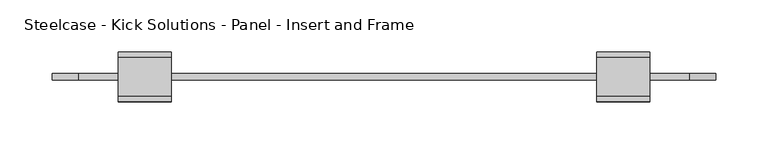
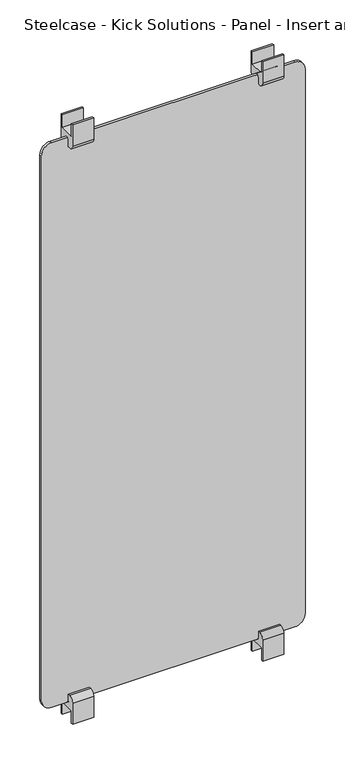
"""IFC4 building model written with IfcOpenShell, lengths in millimetres: furniture geometry, Steelcase - Kick Solutions - Panel - Insert and Frame : Laminate - 66H x 30W."""

from ifc_helpers import new_model, si_unit, point, frame, frame_2d, origin, place, context, project, spatial, polyline, circle_curve, trimmed, segment, composite_curve, outline, extrude, source, transform, mapped, element, save


def steelcase_kick_solutions_panel_insert_and_frame_fda0a697(model_context):
    return source(origin(), model_context, "Body", "SweptSolid", [
        extrude(outline(composite_curve([segment(polyline([(5.3821989, 1651.0), (10.144699, 1651.0), (10.144699, 1596.313221)]), True, "CONTINUOUS"), segment(trimmed(circle_curve(frame_2d((-1.6831687, 1596.313221)), 11.8278677), [point((10.144699, 1596.313221))], [point((-1.6831687, 1584.4853533))], False, "CARTESIAN"), True, "CONTINUOUS"), segment(polyline([(-1.6831687, 1584.4853533), (-7.3178012, 1584.4853533), (-7.3178012, 1599.8857521)]), True, "CONTINUOUS"), segment(trimmed(circle_curve(frame_2d((-13.667801, 1599.8857521)), 6.3499998), [point((-7.3178012, 1599.8857521))], [point((-20.0178007, 1599.8857521))], True, "CARTESIAN"), True, "CONTINUOUS"), segment(polyline([(-20.0178007, 1599.8857521), (-20.0178007, 1584.4853527), (-25.2074988, 1584.4853527)]), True, "CONTINUOUS"), segment(trimmed(circle_curve(frame_2d((-25.2074988, 1596.7581549)), 12.2728022), [point((-25.2074988, 1584.4853527))], [point((-37.480301, 1596.7581549))], False, "CARTESIAN"), True, "CONTINUOUS"), segment(polyline([(-37.480301, 1596.7581549), (-37.480301, 1651.0), (-32.7177988, 1651.0), (-32.7177988, 1619.2499758), (5.3821989, 1619.2499758), (5.3821989, 1651.0)]), True, "CONTINUOUS")], self_intersect=False)), frame((585.1148583, 0.0, 0.0), z_axis=(1.0, 0.0, 0.0), x_axis=(0.0, 1.0, 0.0)), (0.0, 0.0, 1.0), 50.8),
        extrude(outline(composite_curve([segment(polyline([(5.3821989, 120.6499576), (5.3821989, 152.3999815), (-32.7177988, 152.3999815), (-32.7177988, 120.6499576), (-37.480301, 120.6499576), (-37.480301, 174.8918024)]), True, "CONTINUOUS"), segment(trimmed(circle_curve(frame_2d((-25.2074988, 174.8918024)), 12.2728022), [point((-37.480301, 174.8918024))], [point((-25.2074988, 187.1646046))], False, "CARTESIAN"), True, "CONTINUOUS"), segment(polyline([(-25.2074988, 187.1646046), (-20.0178007, 187.1646046), (-20.0178007, 171.7642058)]), True, "CONTINUOUS"), segment(trimmed(circle_curve(frame_2d((-13.667801, 171.7642058)), 6.3499998), [point((-20.0178007, 171.7642058))], [point((-7.3178012, 171.7642058))], True, "CARTESIAN"), True, "CONTINUOUS"), segment(polyline([(-7.3178012, 171.7642058), (-7.3178012, 187.1646046), (-1.6831687, 187.1646046)]), True, "CONTINUOUS"), segment(trimmed(circle_curve(frame_2d((-1.6831687, 175.3367369)), 11.8278677), [point((-1.6831687, 187.1646046))], [point((10.144699, 175.3367369))], False, "CARTESIAN"), True, "CONTINUOUS"), segment(polyline([(10.144699, 175.3367369), (10.144699, 120.6499576), (5.3821989, 120.6499576)]), True, "CONTINUOUS")], self_intersect=False)), frame((585.1148583, 0.0, 0.0), z_axis=(1.0, 0.0, 0.0), x_axis=(0.0, 1.0, 0.0)), (0.0, 0.0, 1.0), 50.8),
        extrude(outline(composite_curve([segment(polyline([(5.3821989, 1651.0), (10.144699, 1651.0), (10.144699, 1596.3132204)]), True, "CONTINUOUS"), segment(trimmed(circle_curve(frame_2d((-1.6831684, 1596.3132204)), 11.8278674), [point((10.144699, 1596.3132204))], [point((-1.6831684, 1584.485353))], False, "CARTESIAN"), True, "CONTINUOUS"), segment(polyline([(-1.6831684, 1584.485353), (-7.3178009, 1584.485353), (-7.3178009, 1599.8857521)]), True, "CONTINUOUS"), segment(trimmed(circle_curve(frame_2d((-13.667801, 1599.8857521)), 6.3500001), [point((-7.3178009, 1599.8857521))], [point((-20.017801, 1599.8857521))], True, "CARTESIAN"), True, "CONTINUOUS"), segment(polyline([(-20.017801, 1599.8857521), (-20.017801, 1584.485353), (-25.2074991, 1584.485353)]), True, "CONTINUOUS"), segment(trimmed(circle_curve(frame_2d((-25.2074991, 1596.7581549)), 12.2728019), [point((-25.2074991, 1584.485353))], [point((-37.480301, 1596.7581549))], False, "CARTESIAN"), True, "CONTINUOUS"), segment(polyline([(-37.480301, 1596.7581549), (-37.480301, 1651.0), (-32.7177988, 1651.0), (-32.7177988, 1619.2499758), (5.3821989, 1619.2499758), (5.3821989, 1651.0)]), True, "CONTINUOUS")], self_intersect=False)), frame((126.0851417, 0.0, 0.0), z_axis=(1.0, 0.0, 0.0), x_axis=(0.0, 1.0, 0.0)), (0.0, 0.0, 1.0), 50.8),
        extrude(outline(composite_curve([segment(polyline([(5.3821989, 120.6499576), (5.3821989, 152.3999818), (-32.7177988, 152.3999818), (-32.7177988, 120.6499576), (-37.480301, 120.6499576), (-37.480301, 174.8918027)]), True, "CONTINUOUS"), segment(trimmed(circle_curve(frame_2d((-25.2074991, 174.8918027)), 12.2728019), [point((-37.480301, 174.8918027))], [point((-25.2074991, 187.1646046))], False, "CARTESIAN"), True, "CONTINUOUS"), segment(polyline([(-25.2074991, 187.1646046), (-20.017801, 187.1646046), (-20.017801, 171.7642055)]), True, "CONTINUOUS"), segment(trimmed(circle_curve(frame_2d((-13.667801, 171.7642055)), 6.3500001), [point((-20.017801, 171.7642055))], [point((-7.3178009, 171.7642055))], True, "CARTESIAN"), True, "CONTINUOUS"), segment(polyline([(-7.3178009, 171.7642055), (-7.3178009, 187.1646041), (-1.6831684, 187.1646041)]), True, "CONTINUOUS"), segment(trimmed(circle_curve(frame_2d((-1.6831684, 175.3367366)), 11.8278674), [point((-1.6831684, 187.1646041))], [point((10.144699, 175.3367366))], False, "CARTESIAN"), True, "CONTINUOUS"), segment(polyline([(10.144699, 175.3367366), (10.144699, 120.6499576), (5.3821989, 120.6499576)]), True, "CONTINUOUS")], self_intersect=False)), frame((126.0851417, 0.0, 0.0), z_axis=(1.0, 0.0, 0.0), x_axis=(0.0, 1.0, 0.0)), (0.0, 0.0, 1.0), 50.8),
        extrude(outline(composite_curve([segment(polyline([(1606.5499516, 674.0148583), (1606.5499516, 87.9851417)]), True, "CONTINUOUS"), segment(trimmed(circle_curve(frame_2d((1581.1499516, 87.9851417)), 25.4), [point((1606.5499516, 87.9851417))], [point((1581.1499516, 62.5851417))], False, "CARTESIAN"), True, "CONTINUOUS"), segment(polyline([(1581.1499516, 62.5851417), (190.5000061, 62.5851417)]), True, "CONTINUOUS"), segment(trimmed(circle_curve(frame_2d((190.5000061, 87.9851417)), 25.4), [point((190.5000061, 62.5851417))], [point((165.1000061, 87.9851417))], False, "CARTESIAN"), True, "CONTINUOUS"), segment(polyline([(165.1000061, 87.9851417), (165.1000061, 674.0148583)]), True, "CONTINUOUS"), segment(trimmed(circle_curve(frame_2d((190.5000061, 674.0148583)), 25.4), [point((165.1000061, 674.0148583))], [point((190.5000061, 699.4148583))], False, "CARTESIAN"), True, "CONTINUOUS"), segment(polyline([(190.5000061, 699.4148583), (1581.1499516, 699.4148583)]), True, "CONTINUOUS"), segment(trimmed(circle_curve(frame_2d((1581.1499516, 674.0148583)), 25.4), [point((1581.1499516, 699.4148583))], [point((1606.5499516, 674.0148583))], False, "CARTESIAN"), True, "CONTINUOUS")], self_intersect=False)), frame((0.0, -16.8428004, 0.0), z_axis=(0.0, 1.0, 0.0), x_axis=(0.0, 0.0, 1.0)), (0.0, 0.0, 1.0), 6.3499985),
    ])


if __name__ == "__main__":
    model = new_model("IFC4")
    model_context = context("Model", 3, world=origin())
    ifc_project = project(units=[si_unit("LENGTHUNIT", "METRE", prefix="MILLI")], contexts=[model_context])
    site = spatial("IfcSite", under=ifc_project)
    building = spatial("IfcBuilding", under=site)
    placement = place(None, origin())
    steelcase_kick_solutions_panel_insert_and_frame_shape = steelcase_kick_solutions_panel_insert_and_frame_fda0a697(model_context)
    element("IfcFurniture", 1, ObjectType="Steelcase - Kick Solutions - Panel - Insert and Frame : Laminate - 66H x 30W", at=placement, inside=building, context=model_context, shape_type="MappedRepresentation", body=[
        mapped(steelcase_kick_solutions_panel_insert_and_frame_shape, transform((0.0, 0.0, 0.0), x_axis=(1.0, 0.0, 0.0), y_axis=(0.0, 1.0, 0.0), z_axis=(0.0, 0.0, 1.0))),
    ])
    save(model, "model.ifc")
